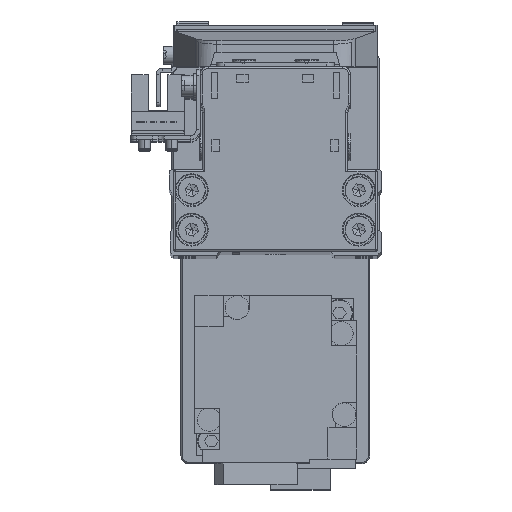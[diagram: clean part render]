
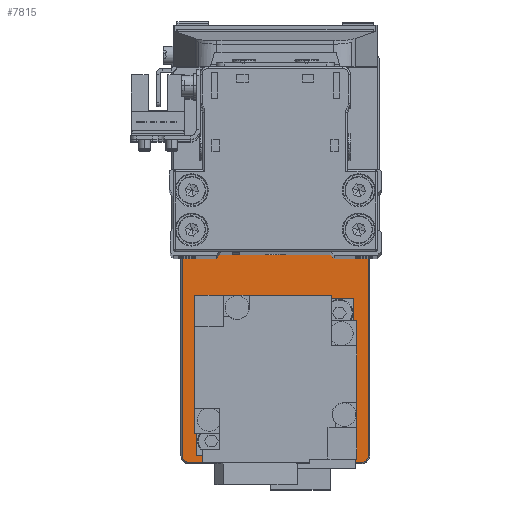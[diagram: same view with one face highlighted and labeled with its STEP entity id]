
A CAD part, top view. The second image highlights one B-rep face of the part: STEP entity #7815.
In plain terms, the highlighted planar face has unit normal (0, 0, 1).
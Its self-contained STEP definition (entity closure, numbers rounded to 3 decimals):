
#393 = EDGE_CURVE ( 'NONE', #33171, #17983, #32915, .T. ) ;
#438 = CARTESIAN_POINT ( 'NONE',  ( -28., 0., 5. ) ) ;
#3050 = DIRECTION ( 'NONE',  ( 0., 0., 1. ) ) ;
#3316 = VERTEX_POINT ( 'NONE', #35243 ) ;
#3379 = DIRECTION ( 'NONE',  ( 0., 1., 0. ) ) ;
#3736 = VERTEX_POINT ( 'NONE', #7418 ) ;
#4423 = ORIENTED_EDGE ( 'NONE', *, *, #21200, .T. ) ;
#4576 = DIRECTION ( 'NONE',  ( 0., 0., 1. ) ) ;
#4832 = CARTESIAN_POINT ( 'NONE',  ( 30., 0., 5. ) ) ;
#5075 = CIRCLE ( 'NONE', #27703, 12.8 ) ;
#5460 = AXIS2_PLACEMENT_3D ( 'NONE', #36941, #9204, #21562 ) ;
#6098 = AXIS2_PLACEMENT_3D ( 'NONE', #35263, #7531, #19897 ) ;
#6129 = DIRECTION ( 'NONE',  ( -1., 0., 0. ) ) ;
#6825 = DIRECTION ( 'NONE',  ( 1., 0., 0. ) ) ;
#7000 = EDGE_CURVE ( 'NONE', #17983, #33171, #5075, .T. ) ;
#7117 = CARTESIAN_POINT ( 'NONE',  ( 0., 0., 5. ) ) ;
#7418 = CARTESIAN_POINT ( 'NONE',  ( -50., 23.7, 5. ) ) ;
#7451 = ORIENTED_EDGE ( 'NONE', *, *, #39920, .T. ) ;
#7531 = DIRECTION ( 'NONE',  ( 0., 0., 1. ) ) ;
#7814 = LINE ( 'NONE', #20166, #28198 ) ;
#7815 = ADVANCED_FACE ( 'NONE', ( #37897, #10153, #22518 ), #34855, .T. ) ;
#8011 = AXIS2_PLACEMENT_3D ( 'NONE', #22224, #34561, #6825 ) ;
#9204 = DIRECTION ( 'NONE',  ( 0., 0., 1. ) ) ;
#9425 = EDGE_LOOP ( 'NONE', ( #15036, #34385 ) ) ;
#9967 = DIRECTION ( 'NONE',  ( 1., 0., 0. ) ) ;
#10153 = FACE_BOUND ( 'NONE', #9425, .T. ) ;
#10412 = ORIENTED_EDGE ( 'NONE', *, *, #34082, .T. ) ;
#10444 = CARTESIAN_POINT ( 'NONE',  ( 30., 0., 5. ) ) ;
#11369 = VECTOR ( 'NONE', #3379, 1000. ) ;
#12794 = DIRECTION ( 'NONE',  ( 0., 0., -1. ) ) ;
#13583 = CARTESIAN_POINT ( 'NONE',  ( 50., 23.7, 5. ) ) ;
#13726 = VERTEX_POINT ( 'NONE', #18953 ) ;
#14091 = CARTESIAN_POINT ( 'NONE',  ( 51.7, 22., 5. ) ) ;
#14566 = VERTEX_POINT ( 'NONE', #30993 ) ;
#15009 = EDGE_CURVE ( 'NONE', #18351, #26285, #18767, .T. ) ;
#15036 = ORIENTED_EDGE ( 'NONE', *, *, #25295, .T. ) ;
#15215 = EDGE_CURVE ( 'NONE', #36988, #3316, #7814, .T. ) ;
#15394 = DIRECTION ( 'NONE',  ( 1., 0., 0. ) ) ;
#16932 = DIRECTION ( 'NONE',  ( 1., 0., 0. ) ) ;
#17033 = VERTEX_POINT ( 'NONE', #24748 ) ;
#17042 = CIRCLE ( 'NONE', #22221, 10.3 ) ;
#17195 = DIRECTION ( 'NONE',  ( 0., 0., -1. ) ) ;
#17521 = CARTESIAN_POINT ( 'NONE',  ( 42.8, 0., 5. ) ) ;
#17983 = VERTEX_POINT ( 'NONE', #20124 ) ;
#18012 = ORIENTED_EDGE ( 'NONE', *, *, #39773, .T. ) ;
#18166 = AXIS2_PLACEMENT_3D ( 'NONE', #30768, #3050, #15394 ) ;
#18351 = VERTEX_POINT ( 'NONE', #28768 ) ;
#18767 = LINE ( 'NONE', #31101, #11369 ) ;
#18953 = CARTESIAN_POINT ( 'NONE',  ( -50., -23.7, 5. ) ) ;
#19453 = CARTESIAN_POINT ( 'NONE',  ( 50., -23.7, 5. ) ) ;
#19466 = DIRECTION ( 'NONE',  ( 0., 0., 1. ) ) ;
#19603 = AXIS2_PLACEMENT_3D ( 'NONE', #32313, #4576, #16932 ) ;
#19897 = DIRECTION ( 'NONE',  ( 1., 0., 0. ) ) ;
#20124 = CARTESIAN_POINT ( 'NONE',  ( 17.2, 0., 5. ) ) ;
#20166 = CARTESIAN_POINT ( 'NONE',  ( -51.7, -22., 5. ) ) ;
#20683 = EDGE_CURVE ( 'NONE', #25378, #3736, #21524, .T. ) ;
#21200 = EDGE_CURVE ( 'NONE', #26285, #25378, #35621, .T. ) ;
#21260 = ORIENTED_EDGE ( 'NONE', *, *, #20683, .T. ) ;
#21524 = LINE ( 'NONE', #33848, #32329 ) ;
#21562 = DIRECTION ( 'NONE',  ( 1., 0., 0. ) ) ;
#22221 = AXIS2_PLACEMENT_3D ( 'NONE', #438, #12794, #25140 ) ;
#22224 = CARTESIAN_POINT ( 'NONE',  ( -28., 0., 5. ) ) ;
#22518 = FACE_OUTER_BOUND ( 'NONE', #24439, .T. ) ;
#22805 = DIRECTION ( 'NONE',  ( 0., 0., -1. ) ) ;
#22942 = CIRCLE ( 'NONE', #5460, 1.7 ) ;
#23569 = CIRCLE ( 'NONE', #6098, 1.7 ) ;
#24439 = EDGE_LOOP ( 'NONE', ( #18012, #10412, #37443, #4423, #21260, #26109, #35367, #7451 ) ) ;
#24748 = CARTESIAN_POINT ( 'NONE',  ( -17.7, 0., 5. ) ) ;
#25140 = DIRECTION ( 'NONE',  ( 1., 0., 0. ) ) ;
#25295 = EDGE_CURVE ( 'NONE', #17033, #14566, #17042, .T. ) ;
#25333 = VERTEX_POINT ( 'NONE', #19453 ) ;
#25353 = LINE ( 'NONE', #37706, #27427 ) ;
#25378 = VERTEX_POINT ( 'NONE', #13583 ) ;
#25465 = CIRCLE ( 'NONE', #8011, 10.3 ) ;
#25886 = ORIENTED_EDGE ( 'NONE', *, *, #7000, .T. ) ;
#25982 = EDGE_LOOP ( 'NONE', ( #30314, #25886 ) ) ;
#26109 = ORIENTED_EDGE ( 'NONE', *, *, #29581, .T. ) ;
#26285 = VERTEX_POINT ( 'NONE', #14091 ) ;
#27427 = VECTOR ( 'NONE', #9967, 1000. ) ;
#27703 = AXIS2_PLACEMENT_3D ( 'NONE', #10444, #22805, #35143 ) ;
#27752 = AXIS2_PLACEMENT_3D ( 'NONE', #7117, #19466, #31809 ) ;
#28198 = VECTOR ( 'NONE', #32497, 1000. ) ;
#28768 = CARTESIAN_POINT ( 'NONE',  ( 51.7, -22., 5. ) ) ;
#29530 = DIRECTION ( 'NONE',  ( 1., 0., 0. ) ) ;
#29581 = EDGE_CURVE ( 'NONE', #3736, #36988, #22942, .T. ) ;
#30314 = ORIENTED_EDGE ( 'NONE', *, *, #393, .T. ) ;
#30768 = CARTESIAN_POINT ( 'NONE',  ( 50., 22., 5. ) ) ;
#30993 = CARTESIAN_POINT ( 'NONE',  ( -38.3, 0., 5. ) ) ;
#31101 = CARTESIAN_POINT ( 'NONE',  ( 51.7, 22., 5. ) ) ;
#31809 = DIRECTION ( 'NONE',  ( 1., 0., 0. ) ) ;
#32313 = CARTESIAN_POINT ( 'NONE',  ( 50., -22., 5. ) ) ;
#32329 = VECTOR ( 'NONE', #6129, 1000. ) ;
#32497 = DIRECTION ( 'NONE',  ( 0., -1., 0. ) ) ;
#32915 = CIRCLE ( 'NONE', #38124, 12.8 ) ;
#33171 = VERTEX_POINT ( 'NONE', #17521 ) ;
#33848 = CARTESIAN_POINT ( 'NONE',  ( -50., 23.7, 5. ) ) ;
#34082 = EDGE_CURVE ( 'NONE', #25333, #18351, #37054, .T. ) ;
#34385 = ORIENTED_EDGE ( 'NONE', *, *, #39401, .T. ) ;
#34561 = DIRECTION ( 'NONE',  ( 0., 0., -1. ) ) ;
#34855 = PLANE ( 'NONE',  #27752 ) ;
#35143 = DIRECTION ( 'NONE',  ( 1., 0., 0. ) ) ;
#35243 = CARTESIAN_POINT ( 'NONE',  ( -51.7, -22., 5. ) ) ;
#35263 = CARTESIAN_POINT ( 'NONE',  ( -50., -22., 5. ) ) ;
#35367 = ORIENTED_EDGE ( 'NONE', *, *, #15215, .T. ) ;
#35621 = CIRCLE ( 'NONE', #18166, 1.7 ) ;
#36941 = CARTESIAN_POINT ( 'NONE',  ( -50., 22., 5. ) ) ;
#36988 = VERTEX_POINT ( 'NONE', #37375 ) ;
#37054 = CIRCLE ( 'NONE', #19603, 1.7 ) ;
#37375 = CARTESIAN_POINT ( 'NONE',  ( -51.7, 22., 5. ) ) ;
#37443 = ORIENTED_EDGE ( 'NONE', *, *, #15009, .T. ) ;
#37706 = CARTESIAN_POINT ( 'NONE',  ( 50., -23.7, 5. ) ) ;
#37897 = FACE_BOUND ( 'NONE', #25982, .T. ) ;
#38124 = AXIS2_PLACEMENT_3D ( 'NONE', #4832, #17195, #29530 ) ;
#39401 = EDGE_CURVE ( 'NONE', #14566, #17033, #25465, .T. ) ;
#39773 = EDGE_CURVE ( 'NONE', #13726, #25333, #25353, .T. ) ;
#39920 = EDGE_CURVE ( 'NONE', #3316, #13726, #23569, .T. ) ;
